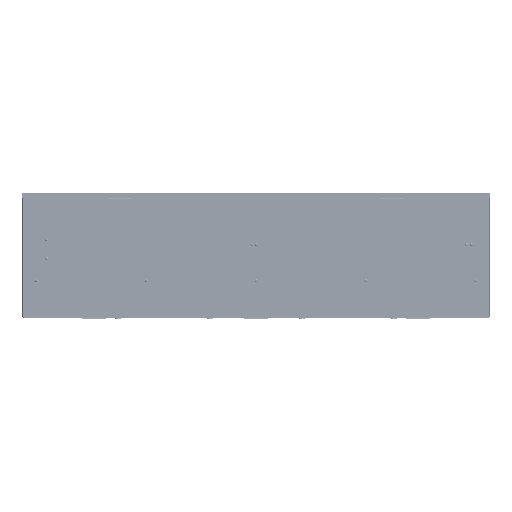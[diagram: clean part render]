
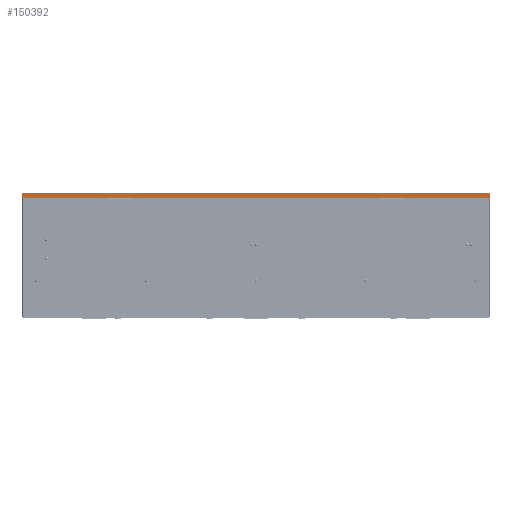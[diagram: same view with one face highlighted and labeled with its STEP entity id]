
A CAD part, front view. The second image highlights one B-rep face of the part: STEP entity #150392.
In plain terms, the highlighted planar face has unit normal (0, -1, 0).
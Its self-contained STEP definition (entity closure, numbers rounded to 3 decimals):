
#14647 = VECTOR ( 'NONE', #55013, 1000. ) ;
#14651 = LINE ( 'NONE', #55012, #14647 ) ;
#14965 = LINE ( 'NONE', #54787, #14985 ) ;
#14985 = VECTOR ( 'NONE', #54769, 1000. ) ;
#15366 = LINE ( 'NONE', #103601, #15369 ) ;
#15369 = VECTOR ( 'NONE', #103600, 1000. ) ;
#38080 = CARTESIAN_POINT ( 'NONE',  ( 585., 74.2, 149.7 ) ) ;
#39048 = CARTESIAN_POINT ( 'NONE',  ( -585., 74.2, 149.7 ) ) ;
#54769 = DIRECTION ( 'NONE',  ( -1., 0., 0. ) ) ;
#54787 = CARTESIAN_POINT ( 'NONE',  ( 583., 74.2, 149.7 ) ) ;
#55012 = CARTESIAN_POINT ( 'NONE',  ( 583., 74.2, 162.5 ) ) ;
#55013 = DIRECTION ( 'NONE',  ( -1., 0., 0. ) ) ;
#58647 = CARTESIAN_POINT ( 'NONE',  ( 583., 74.2, 149.7 ) ) ;
#58685 = CARTESIAN_POINT ( 'NONE',  ( -585., 74.2, 162.5 ) ) ;
#58869 = CARTESIAN_POINT ( 'NONE',  ( -583., 74.2, 149.7 ) ) ;
#58983 = CARTESIAN_POINT ( 'NONE',  ( 585., 74.2, 162.5 ) ) ;
#103363 = CARTESIAN_POINT ( 'NONE',  ( 583., 74.2, 149.7 ) ) ;
#103382 = DIRECTION ( 'NONE',  ( -1., 0., 0. ) ) ;
#103600 = DIRECTION ( 'NONE',  ( 0., 0., -1. ) ) ;
#103601 = CARTESIAN_POINT ( 'NONE',  ( 585., 74.2, 162.5 ) ) ;
#104562 = DIRECTION ( 'NONE',  ( 0., 0., -1. ) ) ;
#104758 = CARTESIAN_POINT ( 'NONE',  ( -585., 74.2, 162.5 ) ) ;
#105297 = CARTESIAN_POINT ( 'NONE',  ( -583., 74.2, 149.7 ) ) ;
#105310 = DIRECTION ( 'NONE',  ( 1., 0., 0. ) ) ;
#118110 = ORIENTED_EDGE ( 'NONE', *, *, #124008, .F. ) ;
#118119 = ORIENTED_EDGE ( 'NONE', *, *, #123842, .F. ) ;
#118220 = ORIENTED_EDGE ( 'NONE', *, *, #123672, .T. ) ;
#118784 = ORIENTED_EDGE ( 'NONE', *, *, #124550, .T. ) ;
#118917 = ORIENTED_EDGE ( 'NONE', *, *, #124142, .F. ) ;
#119046 = ORIENTED_EDGE ( 'NONE', *, *, #124326, .T. ) ;
#123672 = EDGE_CURVE ( 'NONE', #214820, #214423, #14651, .T. ) ;
#123842 = EDGE_CURVE ( 'NONE', #213654, #214359, #14965, .T. ) ;
#124008 = EDGE_CURVE ( 'NONE', #214820, #213654, #15366, .T. ) ;
#124142 = EDGE_CURVE ( 'NONE', #214359, #214715, #222378, .T. ) ;
#124326 = EDGE_CURVE ( 'NONE', #214423, #213966, #222721, .T. ) ;
#124550 = EDGE_CURVE ( 'NONE', #213966, #214715, #223136, .T. ) ;
#150392 = ADVANCED_FACE ( 'NONE', ( #211957 ), #169412, .F. ) ;
#169087 = EDGE_LOOP ( 'NONE', ( #118220, #119046, #118784, #118917, #118119, #118110 ) ) ;
#169390 = CARTESIAN_POINT ( 'NONE',  ( 583., 74.2, 162.5 ) ) ;
#169412 = PLANE ( 'NONE',  #209077 ) ;
#169432 = DIRECTION ( 'NONE',  ( 0., 1., 0. ) ) ;
#169435 = DIRECTION ( 'NONE',  ( 0., 0., 1. ) ) ;
#209077 = AXIS2_PLACEMENT_3D ( 'NONE', #169390, #169432, #169435 ) ;
#211957 = FACE_OUTER_BOUND ( 'NONE', #169087, .T. ) ;
#213654 = VERTEX_POINT ( 'NONE', #38080 ) ;
#213966 = VERTEX_POINT ( 'NONE', #39048 ) ;
#214359 = VERTEX_POINT ( 'NONE', #58647 ) ;
#214423 = VERTEX_POINT ( 'NONE', #58685 ) ;
#214715 = VERTEX_POINT ( 'NONE', #58869 ) ;
#214820 = VERTEX_POINT ( 'NONE', #58983 ) ;
#222378 = LINE ( 'NONE', #103363, #222385 ) ;
#222385 = VECTOR ( 'NONE', #103382, 1000. ) ;
#222721 = LINE ( 'NONE', #104758, #222734 ) ;
#222734 = VECTOR ( 'NONE', #104562, 1000. ) ;
#223136 = LINE ( 'NONE', #105297, #223137 ) ;
#223137 = VECTOR ( 'NONE', #105310, 1000. ) ;
